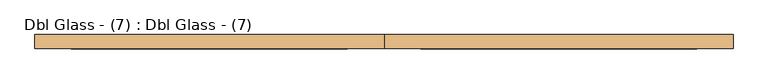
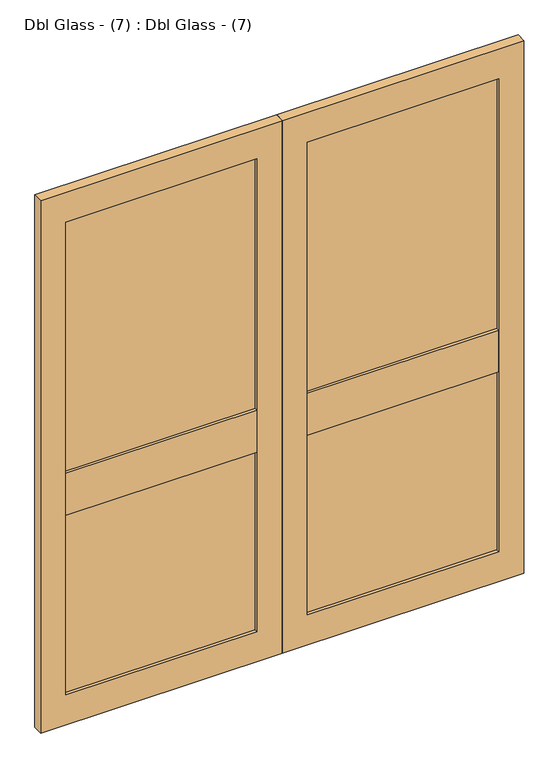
"""IFC4 building model written with IfcOpenShell, lengths in millimetres: door geometry, Dbl Glass - (7) : Dbl Glass - (7)."""

from ifc_helpers import new_model, si_unit, frame, origin, place, context, project, spatial, polyline, outline, extrude, source, transform, mapped, element, save


def dbl_glass_7_dbl_glass_7_87cbbcfa(model_context):
    return source(origin(), model_context, "Body", "SweptSolid", [
        extrude(outline(polyline([(-100.0, -38.0), (-100.0, -50.0), (-855.0, -50.0), (-855.0, -38.0), (-100.0, -38.0)])), frame((0.0, 0.0, 125.0), z_axis=(0.0, 0.0, 1.0), x_axis=(1.0, 0.0, 0.0)), (0.0, 0.0, 1.0), 1975.0),
        extrude(outline(polyline([(855.0, -38.0), (855.0, -50.0), (100.0, -50.0), (100.0, -38.0), (855.0, -38.0)])), frame((0.0, 0.0, 125.0), z_axis=(0.0, 0.0, 1.0), x_axis=(1.0, 0.0, 0.0)), (0.0, 0.0, 1.0), 1975.0),
        extrude(outline(polyline([(2225.0, -955.0), (0.0, -955.0), (0.0, 0.0), (2225.0, 0.0), (2225.0, -955.0)]), holes=[polyline([(2100.0, -855.0), (2100.0, -100.0), (125.0, -100.0), (125.0, -855.0), (2100.0, -855.0)])]), frame((0.0, -62.5788556, 0.0), z_axis=(0.0, 1.0, 0.0), x_axis=(0.0, 0.0, 1.0)), (0.0, 0.0, 1.0), 38.5435966),
        extrude(outline(polyline([(2225.0, 0.0), (0.0, 0.0), (0.0, 955.0), (2225.0, 955.0), (2225.0, 0.0)]), holes=[polyline([(2100.0, 100.0), (2100.0, 855.0), (125.0, 855.0), (125.0, 100.0), (2100.0, 100.0)])]), frame((0.0, -62.5788556, 0.0), z_axis=(0.0, 1.0, 0.0), x_axis=(0.0, 0.0, 1.0)), (0.0, 0.0, 1.0), 38.5435966),
        extrude(outline(polyline([(855.0, -24.035259), (855.0, -62.5788556), (100.0, -62.5788556), (100.0, -24.035259), (855.0, -24.035259)])), frame((0.0, 0.0, 875.0), z_axis=(0.0, 0.0, 1.0), x_axis=(1.0, 0.0, 0.0)), (0.0, 0.0, 1.0), 175.0),
        extrude(outline(polyline([(-100.0, -24.035259), (-100.0, -62.5788556), (-855.0, -62.5788556), (-855.0, -24.035259), (-100.0, -24.035259)])), frame((0.0, 0.0, 875.0), z_axis=(0.0, 0.0, 1.0), x_axis=(1.0, 0.0, 0.0)), (0.0, 0.0, 1.0), 175.0),
    ])


if __name__ == "__main__":
    model = new_model("IFC4")
    model_context = context("Model", 3, world=origin())
    ifc_project = project(units=[si_unit("LENGTHUNIT", "METRE", prefix="MILLI")], contexts=[model_context])
    site = spatial("IfcSite", under=ifc_project)
    building = spatial("IfcBuilding", under=site)
    placement = place(None, origin())
    dbl_glass_7_dbl_glass_7_shape = dbl_glass_7_dbl_glass_7_87cbbcfa(model_context)
    element("IfcDoor", 1, ObjectType="Dbl Glass - (7) : Dbl Glass - (7)", at=placement, inside=building, context=model_context, shape_type="MappedRepresentation", body=[
        mapped(dbl_glass_7_dbl_glass_7_shape, transform((0.0, 0.0, 0.0), x_axis=(1.0, 0.0, 0.0), y_axis=(0.0, 1.0, 0.0), z_axis=(0.0, 0.0, 1.0))),
    ])
    save(model, "model.ifc")
